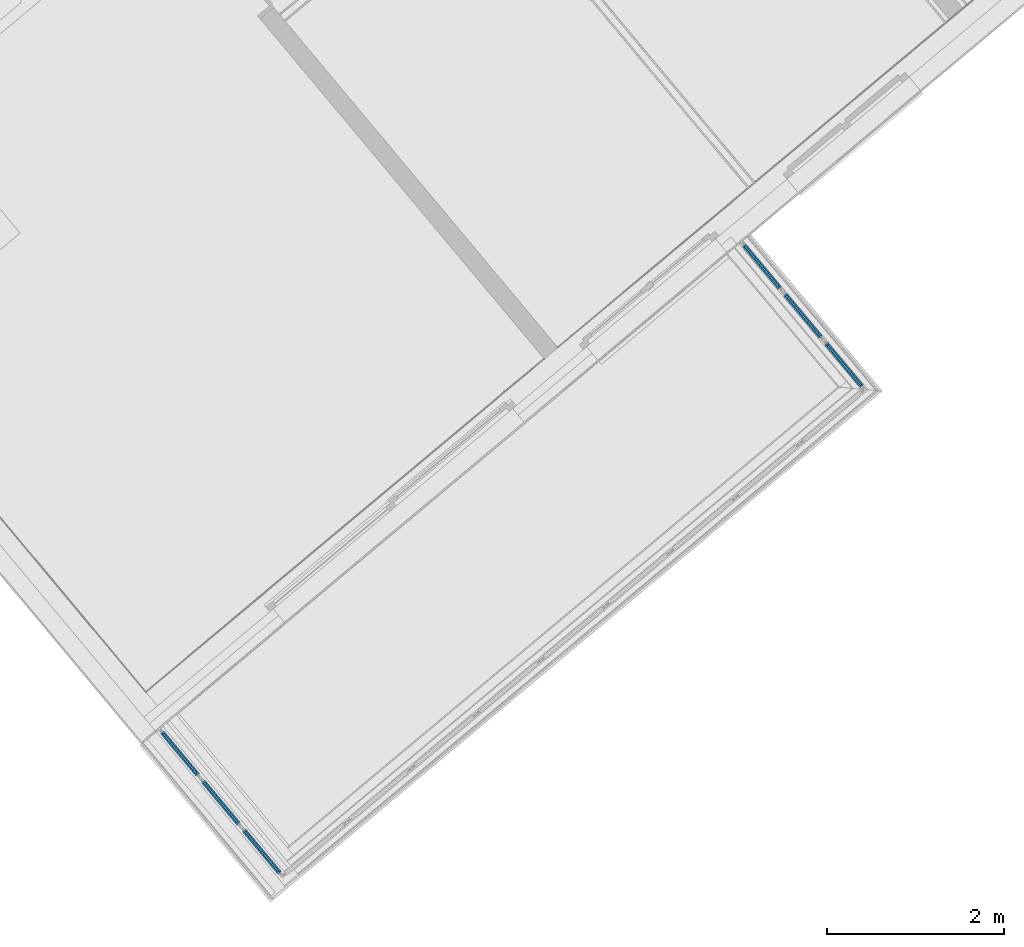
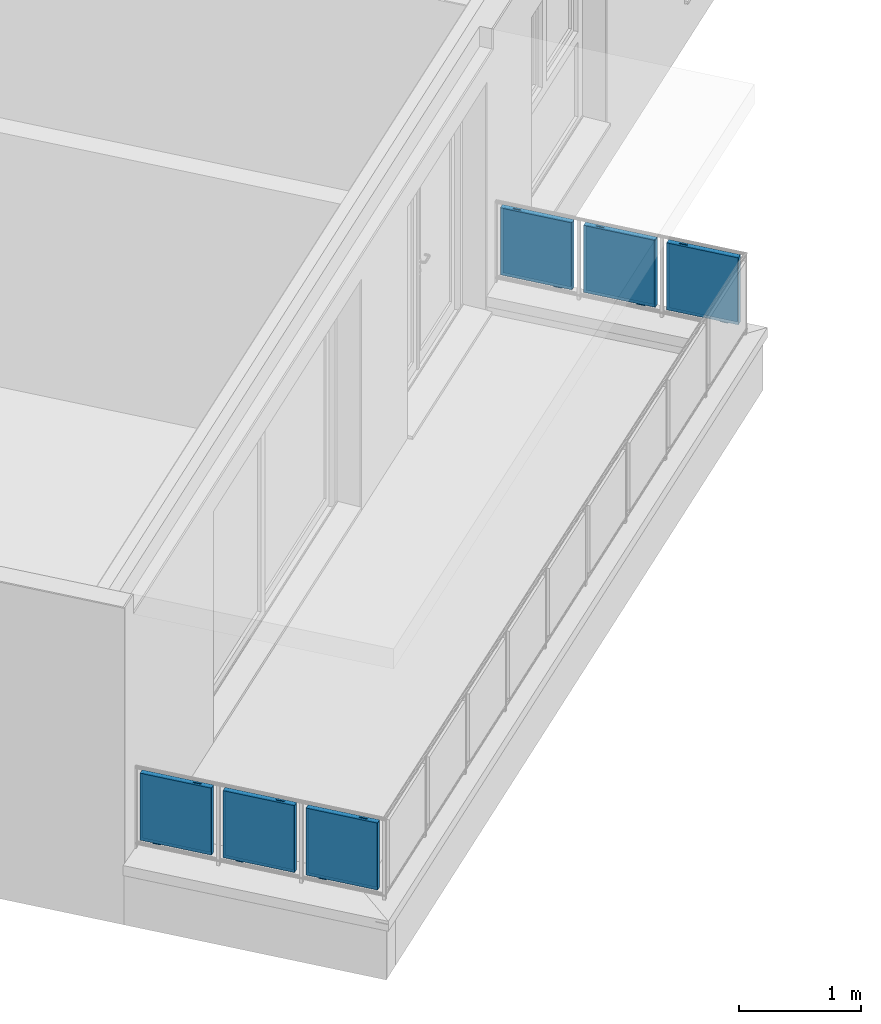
# One storey, part 40 of 53: 12 building element parts, 1 element without a shape of its own.
"""IFC4 building model written with IfcOpenShell, lengths in metres."""

from ifc_helpers import new_model, entity, si_unit, converted_unit, derived_unit, direction, frame, origin_with_axes, place, context, subcontext, project, spatial, polygons, material, type_object, element, aggregate, save


model = new_model("IFC4")

# Units and contexts
model_context = context("Model", 3, precision=1e-05, world=origin_with_axes(), true_north=direction((0.0, 1.0)))
body_context = subcontext(model_context, "Body", "Model", "MODEL_VIEW")
ifc_project = project(units=[si_unit("LENGTHUNIT", "METRE"), si_unit("AREAUNIT", "SQUARE_METRE"), si_unit("VOLUMEUNIT", "CUBIC_METRE"), converted_unit("PLANEANGLEUNIT", "DEGREE", entity("IfcPlaneAngleMeasure", 0.0174532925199), si_unit("PLANEANGLEUNIT", "RADIAN"), dimensions=[0, 0, 0, 0, 0, 0, 0]), converted_unit("TIMEUNIT", "Year", entity("IfcTimeMeasure", 31556926.0), si_unit("TIMEUNIT", "SECOND"), dimensions=[0, 0, 1, 0, 0, 0, 0]), si_unit("MASSUNIT", "GRAM", prefix="KILO"), si_unit("THERMODYNAMICTEMPERATUREUNIT", "DEGREE_CELSIUS"), si_unit("LUMINOUSINTENSITYUNIT", "LUMEN"), si_unit("ENERGYUNIT", "JOULE", prefix="MEGA"), derived_unit("THERMALCONDUCTANCEUNIT", [(si_unit("POWERUNIT", "WATT"), 1), (si_unit("LENGTHUNIT", "METRE"), -1), (si_unit("THERMODYNAMICTEMPERATUREUNIT", "KELVIN"), -1)]), derived_unit("SPECIFICHEATCAPACITYUNIT", [(si_unit("ENERGYUNIT", "JOULE"), 1), (si_unit("MASSUNIT", "GRAM", prefix="KILO"), -1), (si_unit("THERMODYNAMICTEMPERATUREUNIT", "KELVIN"), -1)]), derived_unit("MASSDENSITYUNIT", [(si_unit("MASSUNIT", "GRAM", prefix="KILO"), 1), (si_unit("VOLUMEUNIT", "CUBIC_METRE"), -1)])], contexts=[model_context])

# Site, building, storey, space
site_placement = place(None, frame((-0.00153261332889, -0.00661245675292, 0.0), z_axis=(0.0, 0.0, 1.0), x_axis=(1.0, 0.0, 0.0)))
site = spatial("IfcSite", under=ifc_project, at=site_placement, Name="Gelände", CompositionType="ELEMENT")
building_placement = place(site_placement, origin_with_axes())
building = spatial("IfcBuilding", under=site, at=building_placement, Name="Gebäude", CompositionType="ELEMENT")
storey_placement = place(building_placement, frame((0.0, 0.0, 2.74), z_axis=(0.0, 0.0, 1.0), x_axis=(1.0, 0.0, 0.0)))
storey = spatial("IfcBuildingStorey", under=building, at=storey_placement, Name="OG1", CompositionType="ELEMENT", Elevation=2.74)
space_placement = place(storey_placement, frame((5.82112883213, 13.939405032, 0.22), z_axis=(0.0, 0.0, 1.0), x_axis=(-0.766948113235, -0.641709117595, 0.0)))
space = spatial("IfcSpace", under=storey, at=space_placement, CompositionType="ELEMENT", PredefinedType="NOTDEFINED")

# Railing, building element parts
railing_type = type_object("IfcRailingType", Name="Geländerart", PredefinedType="NOTDEFINED")
railing_placement = place(space_placement, frame((8.7233739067, 0.0, 0.16), z_axis=(0.0, 0.0, 1.0), x_axis=(-0.766948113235, 0.641709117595, 0.0)))
railing = element("IfcRailing", 1, at=railing_placement, inside=space, type_object=railing_type, Name="Geländer - 001", PredefinedType="NOTDEFINED")
ifc_material_1 = material(Name="Profilit")
building_element_part_1_placement = place(railing_placement, origin_with_axes())
building_element_part_1 = element("IfcBuildingElementPart", 2, at=building_element_part_1_placement, material=ifc_material_1, Name="Profilit", PredefinedType="NOTDEFINED", context=body_context, shape_type="Tessellation", body=[
    polygons([(0.467766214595, -0.466568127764, 0.135), (0.0876851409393, -0.0113977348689, 0.135), (0.0876851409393, -0.0113977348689, 0.775), (0.467766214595, -0.466568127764, 0.775), (0.0723335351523, -0.024216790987, 0.135), (0.452414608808, -0.479387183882, 0.135), (0.0723335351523, -0.024216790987, 0.775), (0.452414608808, -0.479387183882, 0.775)], [[[1, 2, 3, 4]], [[5, 2, 1, 6]], [[7, 3, 2, 5]], [[4, 3, 7, 8]], [[1, 4, 8, 6]], [[7, 5, 6, 8]]], closed=True),
])
ifc_material_2 = material(Name="Aluminium")
building_element_part_2_placement = place(railing_placement, origin_with_axes())
building_element_part_2 = element("IfcBuildingElementPart", 3, at=building_element_part_2_placement, material=ifc_material_2, Name="Aluminium", PredefinedType="NOTDEFINED", context=body_context, shape_type="Tessellation", body=[
    polygons([(0.136409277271, -0.0814492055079, 0.12), (0.181275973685, -0.135179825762, 0.12), (0.181275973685, -0.135179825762, 0.095), (0.136409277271, -0.0814492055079, 0.095), (0.132571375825, -0.0846539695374, 0.12), (0.177438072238, -0.138384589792, 0.12), (0.177438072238, -0.138384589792, 0.095), (0.132571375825, -0.0846539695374, 0.095)], [[[1, 2, 3, 4]], [[5, 6, 2, 1]], [[2, 6, 7, 3]], [[4, 3, 7, 8]], [[1, 4, 8, 5]], [[8, 7, 6, 5]]], closed=True),
    polygons([(0.407528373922, -0.406130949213, 0.79), (0.362661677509, -0.352400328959, 0.79), (0.362661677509, -0.352400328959, 0.795), (0.407528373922, -0.406130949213, 0.795), (0.403690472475, -0.409335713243, 0.79), (0.358823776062, -0.355605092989, 0.79), (0.358823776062, -0.355605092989, 0.795), (0.403690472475, -0.409335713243, 0.795)], [[[1, 2, 3, 4]], [[5, 6, 2, 1]], [[2, 6, 7, 3]], [[4, 3, 7, 8]], [[1, 4, 8, 5]], [[8, 7, 6, 5]]], closed=True),
    polygons([(0.0512055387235, -0.0223173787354, 0.12), (0.0895845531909, 0.00973026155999, 0.12), (0.488894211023, -0.468467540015, 0.12), (0.450515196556, -0.500515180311, 0.12), (0.0640245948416, -0.0376689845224, 0.14), (0.0755382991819, -0.0280546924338, 0.14), (0.0723335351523, -0.024216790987, 0.135), (0.0876851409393, -0.0113977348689, 0.135), (0.0908899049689, -0.0152356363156, 0.14), (0.102403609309, -0.005621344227, 0.14), (0.476075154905, -0.453115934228, 0.14), (0.476075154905, -0.453115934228, 0.77), (0.102403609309, -0.005621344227, 0.77), (0.102403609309, -0.005621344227, 0.14), (0.0895845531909, 0.00973026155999, 0.12), (0.0895845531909, 0.00973026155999, 0.79), (0.488894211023, -0.468467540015, 0.79), (0.450515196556, -0.500515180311, 0.79), (0.0512055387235, -0.0223173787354, 0.79), (0.0512055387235, -0.0223173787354, 0.12), (0.0640245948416, -0.0376689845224, 0.14), (0.0640245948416, -0.0376689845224, 0.77), (0.437696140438, -0.485163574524, 0.77), (0.437696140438, -0.485163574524, 0.14), (0.449209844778, -0.475549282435, 0.14), (0.449209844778, -0.475549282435, 0.77), (0.0755382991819, -0.0280546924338, 0.77), (0.0755382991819, -0.0280546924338, 0.14), (0.0723335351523, -0.024216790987, 0.135), (0.0723335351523, -0.024216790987, 0.775), (0.452414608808, -0.479387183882, 0.775), (0.452414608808, -0.479387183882, 0.135), (0.467766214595, -0.466568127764, 0.135), (0.467766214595, -0.466568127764, 0.775), (0.0876851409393, -0.0113977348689, 0.775), (0.0876851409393, -0.0113977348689, 0.135), (0.0908899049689, -0.0152356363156, 0.14), (0.0908899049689, -0.0152356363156, 0.77), (0.464561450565, -0.462730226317, 0.77), (0.464561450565, -0.462730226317, 0.14)], [[[1, 2, 3, 4]], [[1, 5, 6, 7, 8, 9, 10, 2]], [[2, 10, 11, 12, 13, 14, 15, 16, 17, 3]], [[4, 3, 17, 18]], [[5, 1, 4, 18, 19, 20, 21, 22, 23, 24]], [[6, 5, 24, 25]], [[7, 6, 25, 26, 27, 28, 29, 30, 31, 32]], [[8, 7, 32, 33]], [[9, 8, 33, 34, 35, 36, 37, 38, 39, 40]], [[10, 9, 40, 11]], [[11, 40, 39, 12]], [[12, 39, 38, 13]], [[13, 38, 37, 14]], [[20, 15, 14, 37, 36, 29, 28, 21]], [[19, 16, 15, 20]], [[18, 17, 16, 19]], [[27, 22, 21, 28]], [[26, 23, 22, 27]], [[25, 24, 23, 26]], [[35, 30, 29, 36]], [[34, 31, 30, 35]], [[33, 32, 31, 34]]], closed=True),
])
building_element_part_3_placement = place(railing_placement, origin_with_axes())
building_element_part_3 = element("IfcBuildingElementPart", 4, at=building_element_part_3_placement, material=ifc_material_1, Name="Profilit", PredefinedType="NOTDEFINED", context=body_context, shape_type="Tessellation", body=[
    polygons([(0.931171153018, -1.02152395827, 0.135), (0.551090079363, -0.566353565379, 0.135), (0.551090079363, -0.566353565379, 0.775), (0.931171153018, -1.02152395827, 0.775), (0.535738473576, -0.579172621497, 0.135), (0.915819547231, -1.03434301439, 0.135), (0.535738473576, -0.579172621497, 0.775), (0.915819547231, -1.03434301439, 0.775)], [[[1, 2, 3, 4]], [[5, 2, 1, 6]], [[7, 3, 2, 5]], [[4, 3, 7, 8]], [[1, 4, 8, 6]], [[7, 5, 6, 8]]], closed=True),
])
building_element_part_4_placement = place(railing_placement, origin_with_axes())
building_element_part_4 = element("IfcBuildingElementPart", 5, at=building_element_part_4_placement, material=ifc_material_2, Name="Aluminium", PredefinedType="NOTDEFINED", context=body_context, shape_type="Tessellation", body=[
    polygons([(0.599814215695, -0.636405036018, 0.12), (0.644680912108, -0.690135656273, 0.12), (0.644680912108, -0.690135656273, 0.095), (0.599814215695, -0.636405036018, 0.095), (0.595976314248, -0.639609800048, 0.12), (0.640843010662, -0.693340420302, 0.12), (0.640843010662, -0.693340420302, 0.095), (0.595976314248, -0.639609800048, 0.095)], [[[1, 2, 3, 4]], [[5, 6, 2, 1]], [[2, 6, 7, 3]], [[4, 3, 7, 8]], [[1, 4, 8, 5]], [[8, 7, 6, 5]]], closed=True),
    polygons([(0.870933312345, -0.961086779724, 0.79), (0.826066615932, -0.907356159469, 0.79), (0.826066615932, -0.907356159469, 0.795), (0.870933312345, -0.961086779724, 0.795), (0.867095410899, -0.964291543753, 0.79), (0.822228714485, -0.910560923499, 0.79), (0.822228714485, -0.910560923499, 0.795), (0.867095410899, -0.964291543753, 0.795)], [[[1, 2, 3, 4]], [[5, 6, 2, 1]], [[2, 6, 7, 3]], [[4, 3, 7, 8]], [[1, 4, 8, 5]], [[8, 7, 6, 5]]], closed=True),
    polygons([(0.514610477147, -0.577273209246, 0.12), (0.552989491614, -0.54522556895, 0.12), (0.952299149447, -1.02342337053, 0.12), (0.913920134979, -1.05547101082, 0.12), (0.527429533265, -0.592624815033, 0.14), (0.538943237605, -0.583010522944, 0.14), (0.535738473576, -0.579172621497, 0.135), (0.551090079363, -0.566353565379, 0.135), (0.554294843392, -0.570191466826, 0.14), (0.565808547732, -0.560577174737, 0.14), (0.939480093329, -1.00807176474, 0.14), (0.939480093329, -1.00807176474, 0.77), (0.565808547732, -0.560577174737, 0.77), (0.565808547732, -0.560577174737, 0.14), (0.552989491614, -0.54522556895, 0.12), (0.552989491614, -0.54522556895, 0.79), (0.952299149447, -1.02342337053, 0.79), (0.913920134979, -1.05547101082, 0.79), (0.514610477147, -0.577273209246, 0.79), (0.514610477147, -0.577273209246, 0.12), (0.527429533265, -0.592624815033, 0.14), (0.527429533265, -0.592624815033, 0.77), (0.901101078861, -1.04011940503, 0.77), (0.901101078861, -1.04011940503, 0.14), (0.912614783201, -1.03050511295, 0.14), (0.912614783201, -1.03050511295, 0.77), (0.538943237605, -0.583010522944, 0.77), (0.538943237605, -0.583010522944, 0.14), (0.535738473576, -0.579172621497, 0.135), (0.535738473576, -0.579172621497, 0.775), (0.915819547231, -1.03434301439, 0.775), (0.915819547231, -1.03434301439, 0.135), (0.931171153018, -1.02152395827, 0.135), (0.931171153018, -1.02152395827, 0.775), (0.551090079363, -0.566353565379, 0.775), (0.551090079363, -0.566353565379, 0.135), (0.554294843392, -0.570191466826, 0.14), (0.554294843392, -0.570191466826, 0.77), (0.927966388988, -1.01768605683, 0.77), (0.927966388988, -1.01768605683, 0.14)], [[[1, 2, 3, 4]], [[1, 5, 6, 7, 8, 9, 10, 2]], [[2, 10, 11, 12, 13, 14, 15, 16, 17, 3]], [[4, 3, 17, 18]], [[5, 1, 4, 18, 19, 20, 21, 22, 23, 24]], [[6, 5, 24, 25]], [[7, 6, 25, 26, 27, 28, 29, 30, 31, 32]], [[8, 7, 32, 33]], [[9, 8, 33, 34, 35, 36, 37, 38, 39, 40]], [[10, 9, 40, 11]], [[11, 40, 39, 12]], [[12, 39, 38, 13]], [[13, 38, 37, 14]], [[20, 15, 14, 37, 36, 29, 28, 21]], [[19, 16, 15, 20]], [[18, 17, 16, 19]], [[27, 22, 21, 28]], [[26, 23, 22, 27]], [[25, 24, 23, 26]], [[35, 30, 29, 36]], [[34, 31, 30, 35]], [[33, 32, 31, 34]]], closed=True),
])
building_element_part_5_placement = place(railing_placement, origin_with_axes())
building_element_part_5 = element("IfcBuildingElementPart", 6, at=building_element_part_5_placement, material=ifc_material_1, Name="Profilit", PredefinedType="NOTDEFINED", context=body_context, shape_type="Tessellation", body=[
    polygons([(1.39457609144, -1.57647978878, 0.135), (1.01449501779, -1.12130939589, 0.135), (1.01449501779, -1.12130939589, 0.775), (1.39457609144, -1.57647978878, 0.775), (0.999143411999, -1.13412845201, 0.135), (1.37922448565, -1.5892988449, 0.135), (0.999143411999, -1.13412845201, 0.775), (1.37922448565, -1.5892988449, 0.775)], [[[1, 2, 3, 4]], [[5, 2, 1, 6]], [[7, 3, 2, 5]], [[4, 3, 7, 8]], [[1, 4, 8, 6]], [[7, 5, 6, 8]]], closed=True),
])
building_element_part_6_placement = place(railing_placement, origin_with_axes())
building_element_part_6 = element("IfcBuildingElementPart", 7, at=building_element_part_6_placement, material=ifc_material_2, Name="Aluminium", PredefinedType="NOTDEFINED", context=body_context, shape_type="Tessellation", body=[
    polygons([(1.06321915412, -1.19136086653, 0.12), (1.10808585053, -1.24509148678, 0.12), (1.10808585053, -1.24509148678, 0.095), (1.06321915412, -1.19136086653, 0.095), (1.05938125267, -1.19456563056, 0.12), (1.10424794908, -1.24829625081, 0.12), (1.10424794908, -1.24829625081, 0.095), (1.05938125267, -1.19456563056, 0.095)], [[[1, 2, 3, 4]], [[5, 6, 2, 1]], [[2, 6, 7, 3]], [[4, 3, 7, 8]], [[1, 4, 8, 5]], [[8, 7, 6, 5]]], closed=True),
    polygons([(1.33433825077, -1.51604261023, 0.79), (1.28947155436, -1.46231198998, 0.79), (1.28947155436, -1.46231198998, 0.795), (1.33433825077, -1.51604261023, 0.795), (1.33050034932, -1.51924737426, 0.79), (1.28563365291, -1.46551675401, 0.79), (1.28563365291, -1.46551675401, 0.795), (1.33050034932, -1.51924737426, 0.795)], [[[1, 2, 3, 4]], [[5, 6, 2, 1]], [[2, 6, 7, 3]], [[4, 3, 7, 8]], [[1, 4, 8, 5]], [[8, 7, 6, 5]]], closed=True),
    polygons([(0.97801541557, -1.13222903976, 0.12), (1.01639443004, -1.10018139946, 0.12), (1.41570408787, -1.57837920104, 0.12), (1.3773250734, -1.61042684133, 0.12), (0.990834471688, -1.14758064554, 0.14), (1.00234817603, -1.13796635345, 0.14), (0.999143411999, -1.13412845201, 0.135), (1.01449501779, -1.12130939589, 0.135), (1.01769978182, -1.12514729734, 0.14), (1.02921348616, -1.11553300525, 0.14), (1.40288503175, -1.56302759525, 0.14), (1.40288503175, -1.56302759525, 0.77), (1.02921348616, -1.11553300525, 0.77), (1.02921348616, -1.11553300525, 0.14), (1.01639443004, -1.10018139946, 0.12), (1.01639443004, -1.10018139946, 0.79), (1.41570408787, -1.57837920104, 0.79), (1.3773250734, -1.61042684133, 0.79), (0.97801541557, -1.13222903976, 0.79), (0.97801541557, -1.13222903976, 0.12), (0.990834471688, -1.14758064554, 0.14), (0.990834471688, -1.14758064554, 0.77), (1.36450601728, -1.59507523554, 0.77), (1.36450601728, -1.59507523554, 0.14), (1.37601972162, -1.58546094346, 0.14), (1.37601972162, -1.58546094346, 0.77), (1.00234817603, -1.13796635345, 0.77), (1.00234817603, -1.13796635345, 0.14), (0.999143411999, -1.13412845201, 0.135), (0.999143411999, -1.13412845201, 0.775), (1.37922448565, -1.5892988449, 0.775), (1.37922448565, -1.5892988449, 0.135), (1.39457609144, -1.57647978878, 0.135), (1.39457609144, -1.57647978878, 0.775), (1.01449501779, -1.12130939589, 0.775), (1.01449501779, -1.12130939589, 0.135), (1.01769978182, -1.12514729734, 0.14), (1.01769978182, -1.12514729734, 0.77), (1.39137132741, -1.57264188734, 0.77), (1.39137132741, -1.57264188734, 0.14)], [[[1, 2, 3, 4]], [[1, 5, 6, 7, 8, 9, 10, 2]], [[2, 10, 11, 12, 13, 14, 15, 16, 17, 3]], [[4, 3, 17, 18]], [[5, 1, 4, 18, 19, 20, 21, 22, 23, 24]], [[6, 5, 24, 25]], [[7, 6, 25, 26, 27, 28, 29, 30, 31, 32]], [[8, 7, 32, 33]], [[9, 8, 33, 34, 35, 36, 37, 38, 39, 40]], [[10, 9, 40, 11]], [[11, 40, 39, 12]], [[12, 39, 38, 13]], [[13, 38, 37, 14]], [[20, 15, 14, 37, 36, 29, 28, 21]], [[19, 16, 15, 20]], [[18, 17, 16, 19]], [[27, 22, 21, 28]], [[26, 23, 22, 27]], [[25, 24, 23, 26]], [[35, 30, 29, 36]], [[34, 31, 30, 35]], [[33, 32, 31, 34]]], closed=True),
])
building_element_part_7_placement = place(railing_placement, origin_with_axes())
building_element_part_7 = element("IfcBuildingElementPart", 8, at=building_element_part_7_placement, material=ifc_material_1, Name="Profilit", PredefinedType="NOTDEFINED", context=body_context, shape_type="Tessellation", body=[
    polygons([(7.58401839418, 4.37156324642, 0.135), (7.96490842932, 3.91504542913, 0.135), (7.96490842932, 3.91504542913, 0.775), (7.58401839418, 4.37156324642, 0.775), (7.98026526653, 3.92785821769, 0.135), (7.5993752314, 4.38437603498, 0.135), (7.98026526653, 3.92785821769, 0.775), (7.5993752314, 4.38437603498, 0.775)], [[[1, 2, 3, 4]], [[5, 2, 1, 6]], [[7, 3, 2, 5]], [[4, 3, 7, 8]], [[1, 4, 8, 6]], [[7, 5, 6, 8]]], closed=True),
])
building_element_part_8_placement = place(railing_placement, origin_with_axes())
building_element_part_8 = element("IfcBuildingElementPart", 9, at=building_element_part_8_placement, material=ifc_material_2, Name="Aluminium", PredefinedType="NOTDEFINED", context=body_context, shape_type="Tessellation", body=[
    polygons([(7.91621289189, 3.98511678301, 0.12), (7.87136813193, 4.03886571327, 0.12), (7.87136813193, 4.03886571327, 0.095), (7.91621289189, 3.98511678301, 0.095), (7.92005210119, 3.98831998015, 0.12), (7.87520734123, 4.04206891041, 0.12), (7.87520734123, 4.04206891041, 0.095), (7.92005210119, 3.98831998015, 0.095)], [[[1, 2, 3, 4]], [[5, 6, 2, 1]], [[2, 6, 7, 3]], [[4, 3, 7, 8]], [[1, 4, 8, 5]], [[8, 7, 6, 5]]], closed=True),
    polygons([(7.64423155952, 4.31110148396, 0.79), (7.68907631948, 4.2573525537, 0.79), (7.68907631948, 4.2573525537, 0.795), (7.64423155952, 4.31110148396, 0.795), (7.64807076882, 4.3143046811, 0.79), (7.69291552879, 4.26055575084, 0.79), (7.69291552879, 4.26055575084, 0.795), (7.64807076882, 4.3143046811, 0.795)], [[[1, 2, 3, 4]], [[5, 6, 2, 1]], [[2, 6, 7, 3]], [[4, 3, 7, 8]], [[1, 4, 8, 5]], [[8, 7, 6, 5]]], closed=True),
    polygons([(8.00139248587, 3.9259501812, 0.12), (7.96300039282, 3.8939182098, 0.12), (7.56289117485, 4.37347128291, 0.12), (7.60128326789, 4.40550325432, 0.12), (7.98857969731, 3.94130701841, 0.14), (7.97706206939, 3.93169742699, 0.14), (7.98026526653, 3.92785821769, 0.135), (7.96490842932, 3.91504542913, 0.135), (7.96170523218, 3.91888463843, 0.14), (7.95018760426, 3.90927504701, 0.14), (7.57570396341, 4.3581144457, 0.14), (7.57570396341, 4.3581144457, 0.77), (7.95018760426, 3.90927504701, 0.77), (7.95018760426, 3.90927504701, 0.14), (7.96300039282, 3.8939182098, 0.12), (7.96300039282, 3.8939182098, 0.79), (7.56289117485, 4.37347128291, 0.79), (7.60128326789, 4.40550325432, 0.79), (8.00139248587, 3.9259501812, 0.79), (8.00139248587, 3.9259501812, 0.12), (7.98857969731, 3.94130701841, 0.14), (7.98857969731, 3.94130701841, 0.77), (7.61409605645, 4.3901464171, 0.77), (7.61409605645, 4.3901464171, 0.14), (7.60257842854, 4.38053682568, 0.14), (7.60257842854, 4.38053682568, 0.77), (7.97706206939, 3.93169742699, 0.77), (7.97706206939, 3.93169742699, 0.14), (7.98026526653, 3.92785821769, 0.135), (7.98026526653, 3.92785821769, 0.775), (7.5993752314, 4.38437603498, 0.775), (7.5993752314, 4.38437603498, 0.135), (7.58401839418, 4.37156324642, 0.135), (7.58401839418, 4.37156324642, 0.775), (7.96490842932, 3.91504542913, 0.775), (7.96490842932, 3.91504542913, 0.135), (7.96170523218, 3.91888463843, 0.14), (7.96170523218, 3.91888463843, 0.77), (7.58722159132, 4.36772403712, 0.77), (7.58722159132, 4.36772403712, 0.14)], [[[1, 2, 3, 4]], [[1, 5, 6, 7, 8, 9, 10, 2]], [[2, 10, 11, 12, 13, 14, 15, 16, 17, 3]], [[4, 3, 17, 18]], [[5, 1, 4, 18, 19, 20, 21, 22, 23, 24]], [[6, 5, 24, 25]], [[7, 6, 25, 26, 27, 28, 29, 30, 31, 32]], [[8, 7, 32, 33]], [[9, 8, 33, 34, 35, 36, 37, 38, 39, 40]], [[10, 9, 40, 11]], [[11, 40, 39, 12]], [[12, 39, 38, 13]], [[13, 38, 37, 14]], [[20, 15, 14, 37, 36, 29, 28, 21]], [[19, 16, 15, 20]], [[18, 17, 16, 19]], [[27, 22, 21, 28]], [[26, 23, 22, 27]], [[25, 24, 23, 26]], [[35, 30, 29, 36]], [[34, 31, 30, 35]], [[33, 32, 31, 34]]], closed=True),
])
building_element_part_9_placement = place(railing_placement, origin_with_axes())
building_element_part_9 = element("IfcBuildingElementPart", 10, at=building_element_part_9_placement, material=ifc_material_1, Name="Profilit", PredefinedType="NOTDEFINED", context=body_context, shape_type="Tessellation", body=[
    polygons([(7.1198452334, 4.92790050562, 0.135), (7.50073526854, 4.47138268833, 0.135), (7.50073526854, 4.47138268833, 0.775), (7.1198452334, 4.92790050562, 0.775), (7.51609210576, 4.48419547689, 0.135), (7.13520207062, 4.94071329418, 0.135), (7.51609210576, 4.48419547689, 0.775), (7.13520207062, 4.94071329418, 0.775)], [[[1, 2, 3, 4]], [[5, 2, 1, 6]], [[7, 3, 2, 5]], [[4, 3, 7, 8]], [[1, 4, 8, 6]], [[7, 5, 6, 8]]], closed=True),
])
building_element_part_10_placement = place(railing_placement, origin_with_axes())
building_element_part_10 = element("IfcBuildingElementPart", 11, at=building_element_part_10_placement, material=ifc_material_2, Name="Aluminium", PredefinedType="NOTDEFINED", context=body_context, shape_type="Tessellation", body=[
    polygons([(7.45203973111, 4.54145404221, 0.12), (7.40719497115, 4.59520297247, 0.12), (7.40719497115, 4.59520297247, 0.095), (7.45203973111, 4.54145404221, 0.095), (7.45587894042, 4.54465723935, 0.12), (7.41103418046, 4.59840616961, 0.12), (7.41103418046, 4.59840616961, 0.095), (7.45587894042, 4.54465723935, 0.095)], [[[1, 2, 3, 4]], [[5, 6, 2, 1]], [[2, 6, 7, 3]], [[4, 3, 7, 8]], [[1, 4, 8, 5]], [[8, 7, 6, 5]]], closed=True),
    polygons([(7.18005839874, 4.86743874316, 0.79), (7.2249031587, 4.8136898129, 0.79), (7.2249031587, 4.8136898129, 0.795), (7.18005839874, 4.86743874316, 0.795), (7.18389760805, 4.8706419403, 0.79), (7.22874236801, 4.81689301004, 0.79), (7.22874236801, 4.81689301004, 0.795), (7.18389760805, 4.8706419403, 0.795)], [[[1, 2, 3, 4]], [[5, 6, 2, 1]], [[2, 6, 7, 3]], [[4, 3, 7, 8]], [[1, 4, 8, 5]], [[8, 7, 6, 5]]], closed=True),
    polygons([(7.53721932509, 4.4822874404, 0.12), (7.49882723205, 4.450255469, 0.12), (7.09871801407, 4.92980854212, 0.12), (7.13711010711, 4.96184051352, 0.12), (7.52440653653, 4.49764427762, 0.14), (7.51288890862, 4.4880346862, 0.14), (7.51609210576, 4.48419547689, 0.135), (7.50073526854, 4.47138268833, 0.135), (7.4975320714, 4.47522189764, 0.14), (7.48601444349, 4.46561230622, 0.14), (7.11153080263, 4.9144517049, 0.14), (7.11153080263, 4.9144517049, 0.77), (7.48601444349, 4.46561230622, 0.77), (7.48601444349, 4.46561230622, 0.14), (7.49882723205, 4.450255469, 0.12), (7.49882723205, 4.450255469, 0.79), (7.09871801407, 4.92980854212, 0.79), (7.13711010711, 4.96184051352, 0.79), (7.53721932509, 4.4822874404, 0.79), (7.53721932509, 4.4822874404, 0.12), (7.52440653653, 4.49764427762, 0.14), (7.52440653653, 4.49764427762, 0.77), (7.14992289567, 4.9464836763, 0.77), (7.14992289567, 4.9464836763, 0.14), (7.13840526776, 4.93687408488, 0.14), (7.13840526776, 4.93687408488, 0.77), (7.51288890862, 4.4880346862, 0.77), (7.51288890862, 4.4880346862, 0.14), (7.51609210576, 4.48419547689, 0.135), (7.51609210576, 4.48419547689, 0.775), (7.13520207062, 4.94071329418, 0.775), (7.13520207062, 4.94071329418, 0.135), (7.1198452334, 4.92790050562, 0.135), (7.1198452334, 4.92790050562, 0.775), (7.50073526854, 4.47138268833, 0.775), (7.50073526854, 4.47138268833, 0.135), (7.4975320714, 4.47522189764, 0.14), (7.4975320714, 4.47522189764, 0.77), (7.12304843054, 4.92406129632, 0.77), (7.12304843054, 4.92406129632, 0.14)], [[[1, 2, 3, 4]], [[1, 5, 6, 7, 8, 9, 10, 2]], [[2, 10, 11, 12, 13, 14, 15, 16, 17, 3]], [[4, 3, 17, 18]], [[5, 1, 4, 18, 19, 20, 21, 22, 23, 24]], [[6, 5, 24, 25]], [[7, 6, 25, 26, 27, 28, 29, 30, 31, 32]], [[8, 7, 32, 33]], [[9, 8, 33, 34, 35, 36, 37, 38, 39, 40]], [[10, 9, 40, 11]], [[11, 40, 39, 12]], [[12, 39, 38, 13]], [[13, 38, 37, 14]], [[20, 15, 14, 37, 36, 29, 28, 21]], [[19, 16, 15, 20]], [[18, 17, 16, 19]], [[27, 22, 21, 28]], [[26, 23, 22, 27]], [[25, 24, 23, 26]], [[35, 30, 29, 36]], [[34, 31, 30, 35]], [[33, 32, 31, 34]]], closed=True),
])
building_element_part_11_placement = place(railing_placement, origin_with_axes())
building_element_part_11 = element("IfcBuildingElementPart", 12, at=building_element_part_11_placement, material=ifc_material_1, Name="Profilit", PredefinedType="NOTDEFINED", context=body_context, shape_type="Tessellation", body=[
    polygons([(6.65567207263, 5.48423776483, 0.135), (7.03656210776, 5.02771994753, 0.135), (7.03656210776, 5.02771994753, 0.775), (6.65567207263, 5.48423776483, 0.775), (7.05191894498, 5.04053273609, 0.135), (6.67102890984, 5.49705055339, 0.135), (7.05191894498, 5.04053273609, 0.775), (6.67102890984, 5.49705055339, 0.775)], [[[1, 2, 3, 4]], [[5, 2, 1, 6]], [[7, 3, 2, 5]], [[4, 3, 7, 8]], [[1, 4, 8, 6]], [[7, 5, 6, 8]]], closed=True),
])
building_element_part_12_placement = place(railing_placement, origin_with_axes())
building_element_part_12 = element("IfcBuildingElementPart", 13, at=building_element_part_12_placement, material=ifc_material_2, Name="Aluminium", PredefinedType="NOTDEFINED", context=body_context, shape_type="Tessellation", body=[
    polygons([(6.98786657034, 5.09779130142, 0.12), (6.94302181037, 5.15154023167, 0.12), (6.94302181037, 5.15154023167, 0.095), (6.98786657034, 5.09779130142, 0.095), (6.99170577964, 5.10099449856, 0.12), (6.94686101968, 5.15474342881, 0.12), (6.94686101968, 5.15474342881, 0.095), (6.99170577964, 5.10099449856, 0.095)], [[[1, 2, 3, 4]], [[5, 6, 2, 1]], [[2, 6, 7, 3]], [[4, 3, 7, 8]], [[1, 4, 8, 5]], [[8, 7, 6, 5]]], closed=True),
    polygons([(6.71588523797, 5.42377600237, 0.79), (6.76072999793, 5.37002707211, 0.79), (6.76072999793, 5.37002707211, 0.795), (6.71588523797, 5.42377600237, 0.795), (6.71972444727, 5.42697919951, 0.79), (6.76456920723, 5.37323026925, 0.79), (6.76456920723, 5.37323026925, 0.795), (6.71972444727, 5.42697919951, 0.795)], [[[1, 2, 3, 4]], [[5, 6, 2, 1]], [[2, 6, 7, 3]], [[4, 3, 7, 8]], [[1, 4, 8, 5]], [[8, 7, 6, 5]]], closed=True),
    polygons([(7.07304616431, 5.0386246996, 0.12), (7.03465407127, 5.0065927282, 0.12), (6.63454485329, 5.48614580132, 0.12), (6.67293694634, 5.51817777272, 0.12), (7.06023337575, 5.05398153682, 0.14), (7.04871574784, 5.0443719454, 0.14), (7.05191894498, 5.04053273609, 0.135), (7.03656210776, 5.02771994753, 0.135), (7.03335891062, 5.03155915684, 0.14), (7.02184128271, 5.02194956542, 0.14), (6.64735764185, 5.4707889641, 0.14), (6.64735764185, 5.4707889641, 0.77), (7.02184128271, 5.02194956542, 0.77), (7.02184128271, 5.02194956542, 0.14), (7.03465407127, 5.0065927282, 0.12), (7.03465407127, 5.0065927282, 0.79), (6.63454485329, 5.48614580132, 0.79), (6.67293694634, 5.51817777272, 0.79), (7.07304616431, 5.0386246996, 0.79), (7.07304616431, 5.0386246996, 0.12), (7.06023337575, 5.05398153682, 0.14), (7.06023337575, 5.05398153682, 0.77), (6.6857497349, 5.5028209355, 0.77), (6.6857497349, 5.5028209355, 0.14), (6.67423210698, 5.49321134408, 0.14), (6.67423210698, 5.49321134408, 0.77), (7.04871574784, 5.0443719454, 0.77), (7.04871574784, 5.0443719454, 0.14), (7.05191894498, 5.04053273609, 0.135), (7.05191894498, 5.04053273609, 0.775), (6.67102890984, 5.49705055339, 0.775), (6.67102890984, 5.49705055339, 0.135), (6.65567207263, 5.48423776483, 0.135), (6.65567207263, 5.48423776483, 0.775), (7.03656210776, 5.02771994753, 0.775), (7.03656210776, 5.02771994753, 0.135), (7.03335891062, 5.03155915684, 0.14), (7.03335891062, 5.03155915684, 0.77), (6.65887526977, 5.48039855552, 0.77), (6.65887526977, 5.48039855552, 0.14)], [[[1, 2, 3, 4]], [[1, 5, 6, 7, 8, 9, 10, 2]], [[2, 10, 11, 12, 13, 14, 15, 16, 17, 3]], [[4, 3, 17, 18]], [[5, 1, 4, 18, 19, 20, 21, 22, 23, 24]], [[6, 5, 24, 25]], [[7, 6, 25, 26, 27, 28, 29, 30, 31, 32]], [[8, 7, 32, 33]], [[9, 8, 33, 34, 35, 36, 37, 38, 39, 40]], [[10, 9, 40, 11]], [[11, 40, 39, 12]], [[12, 39, 38, 13]], [[13, 38, 37, 14]], [[20, 15, 14, 37, 36, 29, 28, 21]], [[19, 16, 15, 20]], [[18, 17, 16, 19]], [[27, 22, 21, 28]], [[26, 23, 22, 27]], [[25, 24, 23, 26]], [[35, 30, 29, 36]], [[34, 31, 30, 35]], [[33, 32, 31, 34]]], closed=True),
])
aggregate(railing, [building_element_part_1, building_element_part_2, building_element_part_3, building_element_part_4, building_element_part_5, building_element_part_6, building_element_part_7, building_element_part_8, building_element_part_9, building_element_part_10, building_element_part_11, building_element_part_12])

save(model, "model.ifc")
